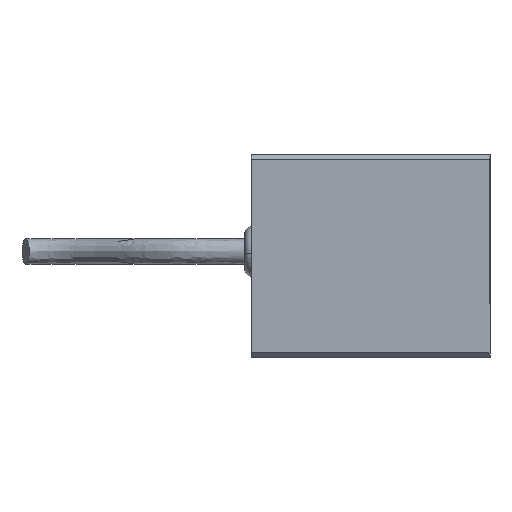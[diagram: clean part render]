
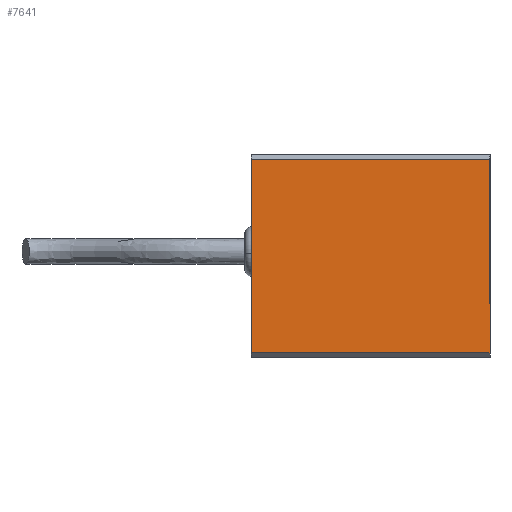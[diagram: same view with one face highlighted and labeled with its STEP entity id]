
A CAD part, front view. The second image highlights one B-rep face of the part: STEP entity #7641.
In plain terms, the highlighted planar face has unit normal (0, -1, 0).
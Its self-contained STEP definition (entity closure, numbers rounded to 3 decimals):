
#994 = AXIS2_PLACEMENT_3D ( 'NONE', #9334, #9332, #9321 ) ;
#1882 = LINE ( 'NONE', #5714, #7247 ) ;
#2813 = VECTOR ( 'NONE', #6105, 1000. ) ;
#2867 = VERTEX_POINT ( 'NONE', #8515 ) ;
#3333 = EDGE_CURVE ( 'NONE', #2867, #3576, #6678, .T. ) ;
#3407 = VERTEX_POINT ( 'NONE', #5872 ) ;
#3467 = EDGE_CURVE ( 'NONE', #3407, #3576, #1882, .T. ) ;
#3576 = VERTEX_POINT ( 'NONE', #5287 ) ;
#3612 = LINE ( 'NONE', #4690, #9199 ) ;
#3653 = CARTESIAN_POINT ( 'NONE',  ( 0., -22.5, 21.5 ) ) ;
#3802 = ORIENTED_EDGE ( 'NONE', *, *, #3333, .T. ) ;
#3853 = ORIENTED_EDGE ( 'NONE', *, *, #8721, .T. ) ;
#3928 = ORIENTED_EDGE ( 'NONE', *, *, #3467, .F. ) ;
#4679 = DIRECTION ( 'NONE',  ( 0., 0., -1. ) ) ;
#4690 = CARTESIAN_POINT ( 'NONE',  ( 0., -22.5, 22.5 ) ) ;
#5287 = CARTESIAN_POINT ( 'NONE',  ( 53., -22.5, -21.5 ) ) ;
#5304 = EDGE_CURVE ( 'NONE', #3407, #8971, #5447, .T. ) ;
#5447 = LINE ( 'NONE', #8475, #7128 ) ;
#5714 = CARTESIAN_POINT ( 'NONE',  ( 53., -22.5, 22.5 ) ) ;
#5788 = DIRECTION ( 'NONE',  ( 0., 0., -1. ) ) ;
#5872 = CARTESIAN_POINT ( 'NONE',  ( 53., -22.5, 21.5 ) ) ;
#6105 = DIRECTION ( 'NONE',  ( 1., 0., 0. ) ) ;
#6174 = ORIENTED_EDGE ( 'NONE', *, *, #5304, .T. ) ;
#6200 = CARTESIAN_POINT ( 'NONE',  ( 53., -22.5, -21.5 ) ) ;
#6678 = LINE ( 'NONE', #6200, #2813 ) ;
#6830 = FACE_OUTER_BOUND ( 'NONE', #7814, .T. ) ;
#7128 = VECTOR ( 'NONE', #9295, 1000. ) ;
#7247 = VECTOR ( 'NONE', #5788, 1000. ) ;
#7641 = ADVANCED_FACE ( 'NONE', ( #6830 ), #9403, .F. ) ;
#7814 = EDGE_LOOP ( 'NONE', ( #3853, #3802, #3928, #6174 ) ) ;
#8475 = CARTESIAN_POINT ( 'NONE',  ( 53., -22.5, 21.5 ) ) ;
#8515 = CARTESIAN_POINT ( 'NONE',  ( 0., -22.5, -21.5 ) ) ;
#8721 = EDGE_CURVE ( 'NONE', #8971, #2867, #3612, .T. ) ;
#8971 = VERTEX_POINT ( 'NONE', #3653 ) ;
#9199 = VECTOR ( 'NONE', #4679, 1000. ) ;
#9295 = DIRECTION ( 'NONE',  ( -1., 0., 0. ) ) ;
#9321 = DIRECTION ( 'NONE',  ( 0., 0., 1. ) ) ;
#9332 = DIRECTION ( 'NONE',  ( 0., 1., 0. ) ) ;
#9334 = CARTESIAN_POINT ( 'NONE',  ( 53., -22.5, 22.5 ) ) ;
#9403 = PLANE ( 'NONE',  #994 ) ;
